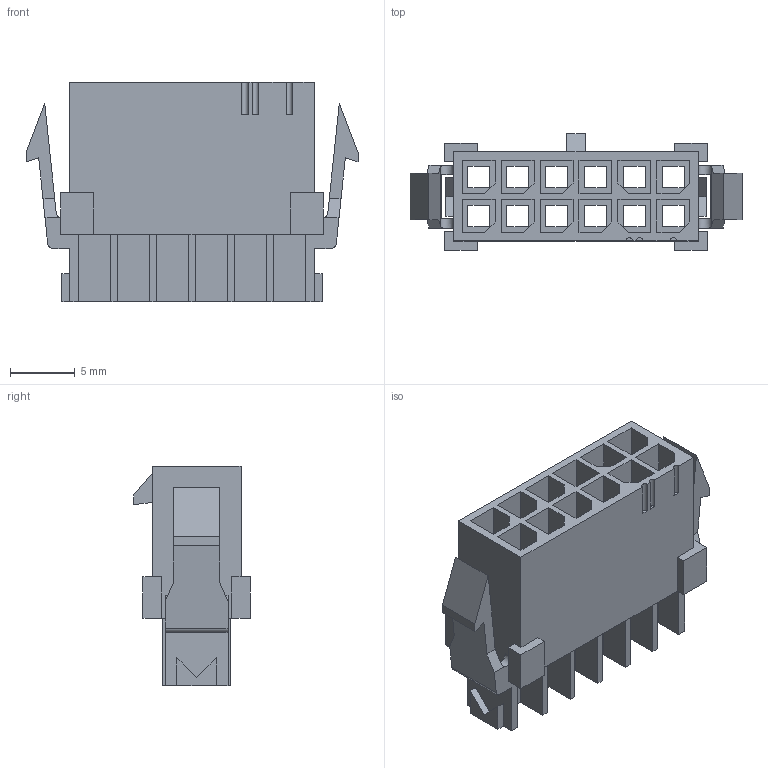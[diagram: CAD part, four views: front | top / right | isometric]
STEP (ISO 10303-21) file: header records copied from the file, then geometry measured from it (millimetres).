
FILE_DESCRIPTION((''),'2;1');
FILE_NAME('2036321200','2019-06-19T',('gga'),(''),'PRO/ENGINEER BY PARAMETRIC TECHNOLOGY CORPORATION, 2016010','PRO/ENGINEER BY PARAMETRIC TECHNOLOGY CORPORATION, 2016010','');
FILE_SCHEMA(('CONFIG_CONTROL_DESIGN'));
Length unit declared in the file: millimetre
Products named in the file (1): 2036321200
Bounding box: 25.57 x 8.95 x 16.89 mm (x, y, z)
Volume: 1063.7 mm3; surface area: 2894.5 mm2
Topology: 1 solids, 1 shells, 341 faces, 992 edges, 664 vertices
Faces by surface type: plane 334, cylinder 7
Entity records: 11137 total; most frequent: CARTESIAN_POINT 2004, ORIENTED_EDGE 1980, DIRECTION 1690, EDGE_CURVE 990, VECTOR 970, LINE 970, VERTEX_POINT 660, EDGE_LOOP 378
